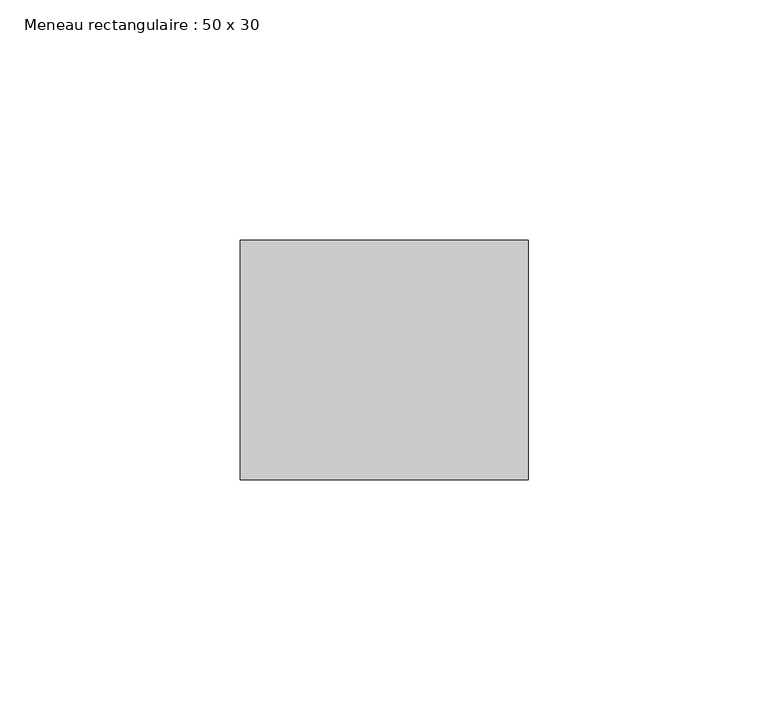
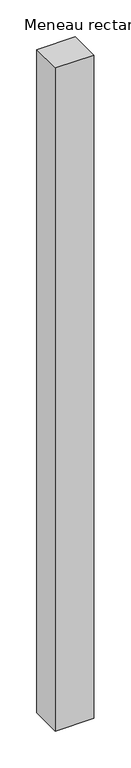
"""IFC4 building model written with IfcOpenShell, lengths in millimetres: member geometry, Meneau rectangulaire : 50 x 30."""

from ifc_helpers import new_model, si_unit, frame, origin, place, context, project, spatial, polyline, outline, extrude, source, transform, mapped, element, save


def meneau_rectangulaire_50_x_30_e9803582(model_context):
    return source(origin(), model_context, "Body", "SweptSolid", [
        extrude(outline(polyline([(0.0, 0.0), (0.0, -50.0), (-60.0, -50.0), (-60.0, 0.0), (0.0, 0.0)])), frame((0.0, 0.0, -1097.8939429), z_axis=(0.0, 0.0, 1.0), x_axis=(1.0, 0.0, 0.0)), (0.0, 0.0, 1.0), 1097.8939429),
    ])


if __name__ == "__main__":
    model = new_model("IFC4")
    model_context = context("Model", 3, world=origin())
    ifc_project = project(units=[si_unit("LENGTHUNIT", "METRE", prefix="MILLI")], contexts=[model_context])
    site = spatial("IfcSite", under=ifc_project)
    building = spatial("IfcBuilding", under=site)
    placement = place(None, origin())
    meneau_rectangulaire_50_x_30_shape = meneau_rectangulaire_50_x_30_e9803582(model_context)
    element("IfcMember", 1, ObjectType="Meneau rectangulaire : 50 x 30", at=placement, inside=building, context=model_context, shape_type="MappedRepresentation", body=[
        mapped(meneau_rectangulaire_50_x_30_shape, transform((0.0, 0.0, 0.0), x_axis=(1.0, 0.0, 0.0), y_axis=(0.0, 1.0, 0.0), z_axis=(0.0, 0.0, 1.0))),
    ])
    save(model, "model.ifc")
